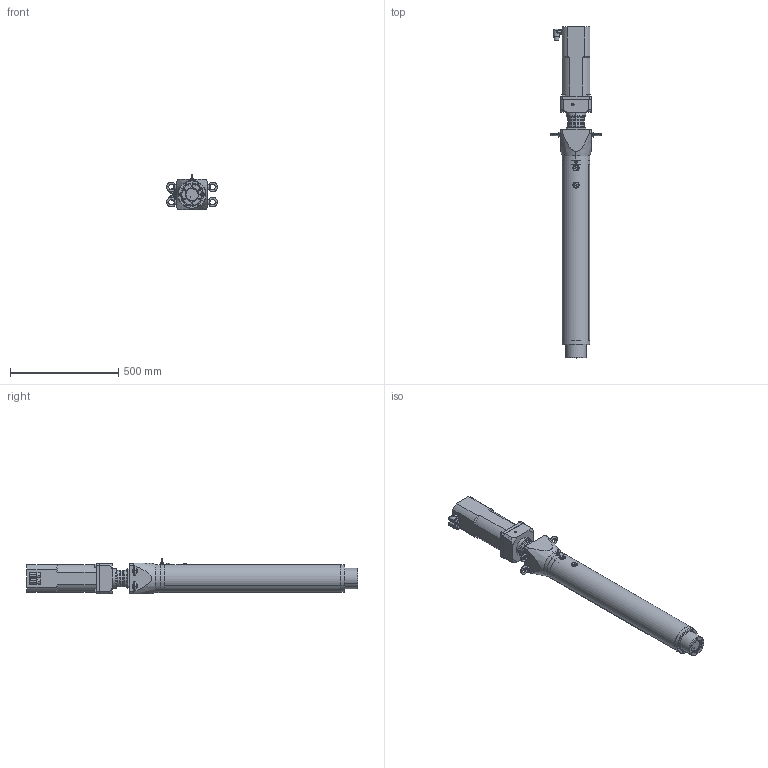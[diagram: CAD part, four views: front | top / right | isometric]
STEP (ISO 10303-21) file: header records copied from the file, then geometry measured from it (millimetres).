
FILE_DESCRIPTION (( 'STEP AP203' ), '1' );
FILE_NAME ('LN5I0300_055_025HG.STEP', '2018-01-29T09:13:04', ( '' ), ( '' ), 'SwSTEP 2.0', 'SolidWorks 2016', '' );
FILE_SCHEMA (( 'CONFIG_CONTROL_DESIGN' ));
Length unit declared in the file: millimetre
Products named in the file (1): LN5I0300_055_025HG
Bounding box: 235 x 1532.5 x 163.45 mm (x, y, z)
Volume: 16250006.6 mm3; surface area: 1631224.7 mm2
Topology: 27 solids, 27 shells, 1050 faces, 2465 edges, 1477 vertices
Faces by surface type: cylinder 415, plane 351, cone 216, torus 48, bspline 18, sphere 2
Entity records: 31628 total; most frequent: CARTESIAN_POINT 7435, DIRECTION 5367, ORIENTED_EDGE 4694, EDGE_CURVE 2347, AXIS2_PLACEMENT_3D 2117, VERTEX_POINT 1477, EDGE_LOOP 1248, LINE 1133
